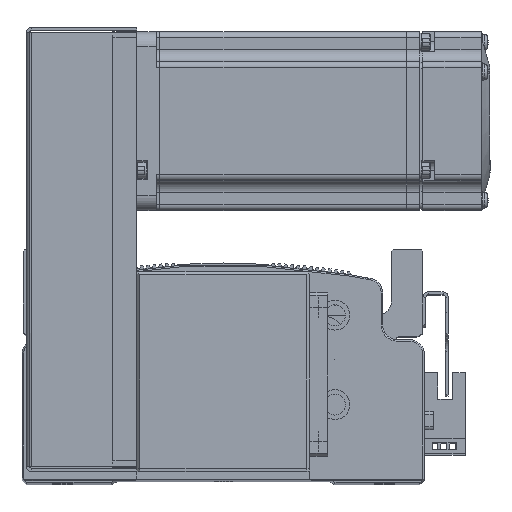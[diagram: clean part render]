
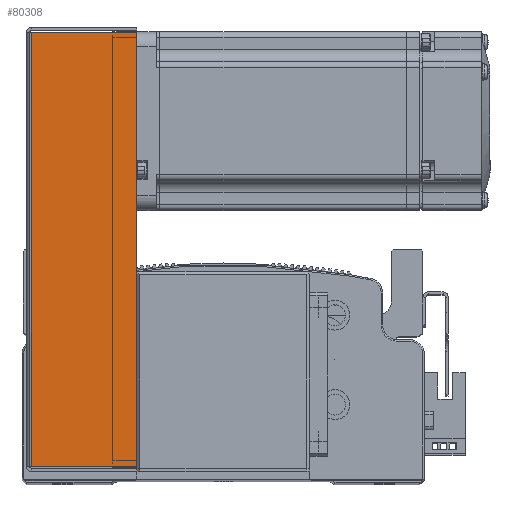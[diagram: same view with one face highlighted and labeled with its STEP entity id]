
A CAD part, top view. The second image highlights one B-rep face of the part: STEP entity #80308.
In plain terms, the highlighted planar face has unit normal (0, 0, 1).
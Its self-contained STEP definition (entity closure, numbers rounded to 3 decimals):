
#7871 = LINE ( 'NONE', #18906, #7923 ) ;
#7923 = VECTOR ( 'NONE', #18861, 1000. ) ;
#7999 = LINE ( 'NONE', #19159, #8021 ) ;
#8003 = VECTOR ( 'NONE', #19235, 1000. ) ;
#8021 = VECTOR ( 'NONE', #19195, 1000. ) ;
#8063 = LINE ( 'NONE', #19252, #8003 ) ;
#8093 = VECTOR ( 'NONE', #19294, 1000. ) ;
#8171 = LINE ( 'NONE', #19250, #8093 ) ;
#18861 = DIRECTION ( 'NONE',  ( -1., 0., 0. ) ) ;
#18906 = CARTESIAN_POINT ( 'NONE',  ( -74.5, 0.737, 34.5 ) ) ;
#19159 = CARTESIAN_POINT ( 'NONE',  ( -72.793, 0., 34.5 ) ) ;
#19195 = DIRECTION ( 'NONE',  ( 0., 1., 0. ) ) ;
#19235 = DIRECTION ( 'NONE',  ( -1., 0., 0. ) ) ;
#19250 = CARTESIAN_POINT ( 'NONE',  ( 72.793, 0., 34.5 ) ) ;
#19252 = CARTESIAN_POINT ( 'NONE',  ( 0., 36., 34.5 ) ) ;
#19294 = DIRECTION ( 'NONE',  ( 0., 1., 0. ) ) ;
#22536 = VERTEX_POINT ( 'NONE', #32272 ) ;
#22540 = VERTEX_POINT ( 'NONE', #32260 ) ;
#22554 = VERTEX_POINT ( 'NONE', #32282 ) ;
#22599 = VERTEX_POINT ( 'NONE', #32414 ) ;
#32260 = CARTESIAN_POINT ( 'NONE',  ( 72.793, 0.737, 34.5 ) ) ;
#32272 = CARTESIAN_POINT ( 'NONE',  ( 72.793, 36., 34.5 ) ) ;
#32282 = CARTESIAN_POINT ( 'NONE',  ( -72.793, 0.737, 34.5 ) ) ;
#32414 = CARTESIAN_POINT ( 'NONE',  ( -72.793, 36., 34.5 ) ) ;
#43242 = EDGE_CURVE ( 'NONE', #22540, #22554, #7871, .T. ) ;
#43293 = EDGE_CURVE ( 'NONE', #22554, #22599, #7999, .T. ) ;
#43302 = EDGE_CURVE ( 'NONE', #22536, #22599, #8063, .T. ) ;
#43314 = EDGE_CURVE ( 'NONE', #22540, #22536, #8171, .T. ) ;
#54905 = PLANE ( 'NONE',  #71024 ) ;
#54919 = DIRECTION ( 'NONE',  ( -1., 0., 0. ) ) ;
#54926 = CARTESIAN_POINT ( 'NONE',  ( 0., 0., 34.5 ) ) ;
#54998 = DIRECTION ( 'NONE',  ( 0., 0., -1. ) ) ;
#62295 = ORIENTED_EDGE ( 'NONE', *, *, #43302, .T. ) ;
#62325 = ORIENTED_EDGE ( 'NONE', *, *, #43293, .F. ) ;
#62367 = ORIENTED_EDGE ( 'NONE', *, *, #43314, .T. ) ;
#62374 = ORIENTED_EDGE ( 'NONE', *, *, #43242, .F. ) ;
#65512 = EDGE_LOOP ( 'NONE', ( #62374, #62367, #62295, #62325 ) ) ;
#71024 = AXIS2_PLACEMENT_3D ( 'NONE', #54926, #54998, #54919 ) ;
#75387 = FACE_OUTER_BOUND ( 'NONE', #65512, .T. ) ;
#80308 = ADVANCED_FACE ( 'NONE', ( #75387 ), #54905, .F. ) ;
